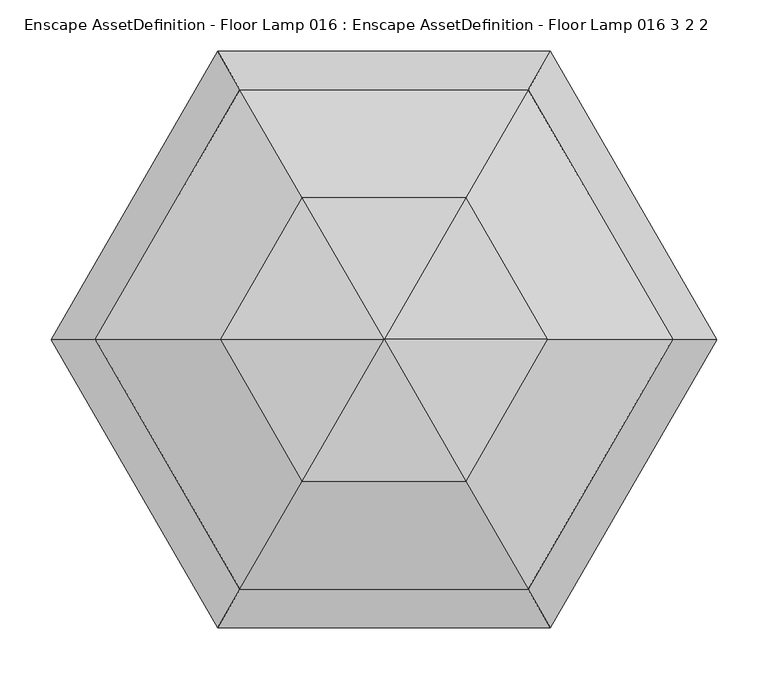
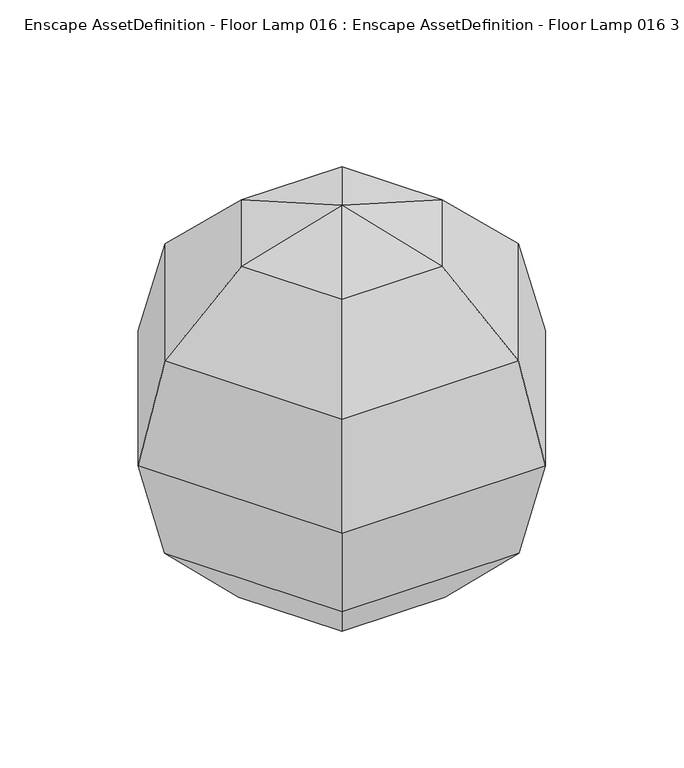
"""IFC4 building model written with IfcOpenShell, lengths in millimetres: geographic element geometry, Enscape AssetDefinition - Floor Lamp 016 : Enscape AssetDefinition - Floor Lamp 016 3 2 2."""

from ifc_helpers import new_model, si_unit, origin, place, context, project, spatial, triangles, source, transform, mapped, element, save


def enscape_assetdefinition_floor_lamp_016_enscape_838fbf4e(model_context):
    return source(origin(), model_context, "Body", "Tessellation", [
        triangles([(-140.3140099, -243.0304782, 437.0137321), (-280.6273294, 0.0, 437.0137321), (-323.4353451, 0.0, 275.6128099), (-140.3133286, 243.0304782, 437.0137321), (0.0, 0.0, 600.0000046), (-158.9637527, 0.0, 553.1640189), (-79.4822124, -137.6665697, 553.1640189), (-79.4815403, 137.6665697, 553.1640189), (-161.7173274, 280.1034333, 275.6128099), (-82.0030978, 142.0333726, -0.4878464), (-140.59636, 243.520401, 114.2268122), (-164.0061956, 0.0, -0.4878464), (140.59636, 243.520401, 114.2268122), (161.7180177, 280.1034333, 275.6128099), (82.0030978, 142.0333726, -0.4878464), (323.4353451, 0.0, 275.6128099), (82.0030978, -142.0333726, -0.4878464), (-281.1934104, 0.0, 114.2268122), (-82.0030978, -142.0333726, -0.4878464), (281.1934104, 0.0, 114.2268122), (140.59636, -243.520401, 114.2268122), (164.0061956, 0.0, -0.4878464), (140.3140099, 243.0304782, 437.0137321), (-161.7180177, -280.1034333, 275.6128099), (161.7173274, -280.1034333, 275.6128099), (-140.5970595, -243.520401, 114.2268122), (140.3133286, -243.0304782, 437.0137321), (158.9637527, 0.0, 553.1640189), (280.6273294, 0.0, 437.0137321), (79.4822124, 137.6665697, 553.1640189), (79.4815403, -137.6665697, 553.1640189)], [[5, 7, 31], [1, 31, 7], [5, 31, 28], [5, 30, 8], [5, 28, 30], [23, 8, 30], [29, 23, 30], [29, 30, 28], [27, 29, 28], [1, 27, 31], [27, 28, 31], [24, 27, 1], [18, 26, 24], [18, 19, 26], [26, 19, 17], [21, 17, 22], [26, 17, 21], [26, 21, 25], [24, 25, 27], [26, 25, 24], [25, 29, 27], [25, 16, 29], [16, 23, 29], [25, 21, 20], [21, 22, 20], [25, 20, 16], [15, 22, 17], [20, 22, 15], [17, 19, 12], [18, 12, 19], [12, 15, 17], [12, 10, 15], [13, 15, 10], [16, 20, 13], [20, 15, 13], [16, 14, 23], [16, 13, 14], [11, 10, 12], [14, 13, 11], [11, 12, 18], [13, 10, 11], [11, 18, 3], [18, 24, 3], [11, 3, 9], [14, 11, 9], [14, 9, 4], [23, 4, 8], [14, 4, 23], [5, 8, 6], [5, 6, 7], [4, 6, 8], [9, 3, 2], [2, 3, 24], [4, 2, 6], [2, 1, 7], [9, 2, 4], [2, 24, 1], [2, 7, 6]]),
    ])


if __name__ == "__main__":
    model = new_model("IFC4")
    model_context = context("Model", 3, world=origin())
    ifc_project = project(units=[si_unit("LENGTHUNIT", "METRE", prefix="MILLI")], contexts=[model_context])
    site = spatial("IfcSite", under=ifc_project)
    building = spatial("IfcBuilding", under=site)
    placement = place(None, origin())
    enscape_assetdefinition_floor_lamp_016_enscape_shape = enscape_assetdefinition_floor_lamp_016_enscape_838fbf4e(model_context)
    element("IfcGeographicElement", 1, ObjectType="Enscape AssetDefinition - Floor Lamp 016 : Enscape AssetDefinition - Floor Lamp 016 3 2 2", at=placement, inside=building, context=model_context, shape_type="MappedRepresentation", body=[
        mapped(enscape_assetdefinition_floor_lamp_016_enscape_shape, transform((0.0, 0.0, 0.0), x_axis=(1.0, 0.0, 0.0), y_axis=(0.0, 1.0, 0.0), z_axis=(0.0, 0.0, 1.0))),
    ])
    save(model, "model.ifc")
